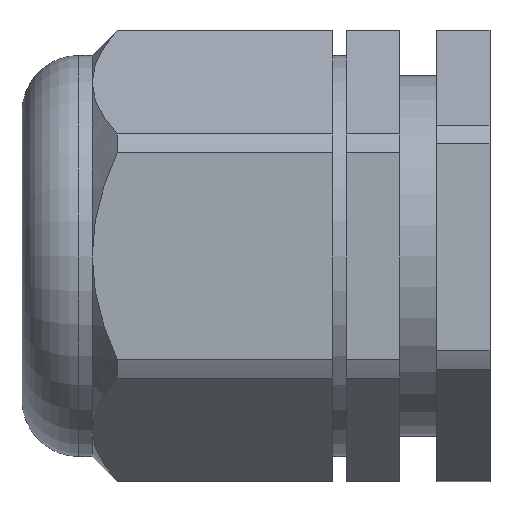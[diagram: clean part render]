
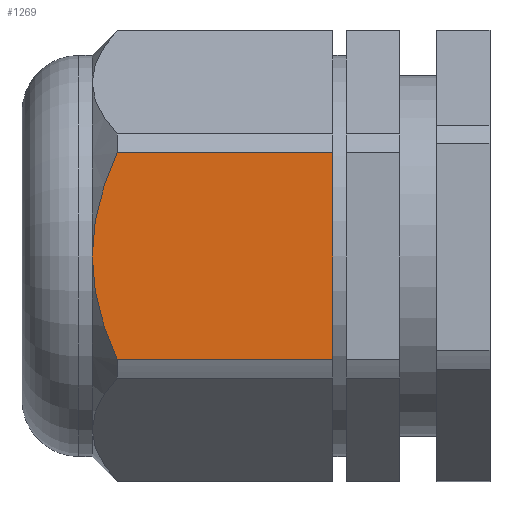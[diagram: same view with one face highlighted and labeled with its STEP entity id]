
A CAD part, left-side view. The second image highlights one B-rep face of the part: STEP entity #1269.
In plain terms, the highlighted planar face has unit normal (-1, 0, 0).
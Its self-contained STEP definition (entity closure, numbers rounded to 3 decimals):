
#41 = CARTESIAN_POINT ( 'NONE',  ( -30., 59.058, -5.334 ) ) ;
#49 = LINE ( 'NONE', #898, #1514 ) ;
#81 = ORIENTED_EDGE ( 'NONE', *, *, #2110, .F. ) ;
#91 = ORIENTED_EDGE ( 'NONE', *, *, #1362, .F. ) ;
#127 = CARTESIAN_POINT ( 'NONE',  ( -30., 55.75, -15.462 ) ) ;
#145 = CARTESIAN_POINT ( 'NONE',  ( -30., 57.509, 11.124 ) ) ;
#191 = B_SPLINE_CURVE_WITH_KNOTS ( 'NONE', 3,
 ( #823, #2174, #1186, #2336, #1755, #1006, #1194, #1216, #41, #421, #1745, #2136, #1760, #1399 ),
 .UNSPECIFIED., .F., .F.,
 ( 4, 2, 2, 2, 2, 2, 4 ),
 ( 0.024, 0.026, 0.028, 0.032, 0.036, 0.038, 0.04 ),
 .UNSPECIFIED. ) ;
#229 = EDGE_LOOP ( 'NONE', ( #2447, #2217, #1839, #81, #91, #2428 ) ) ;
#242 = LINE ( 'NONE', #381, #1107 ) ;
#332 = CARTESIAN_POINT ( 'NONE',  ( -30., 56.304, 14.252 ) ) ;
#381 = CARTESIAN_POINT ( 'NONE',  ( -30., 23.5, 33.75 ) ) ;
#421 = CARTESIAN_POINT ( 'NONE',  ( -30., 59.32, -3.353 ) ) ;
#455 = EDGE_CURVE ( 'NONE', #1645, #2451, #1692, .T. ) ;
#537 = CARTESIAN_POINT ( 'NONE',  ( -30., 0., 15.462 ) ) ;
#630 = CARTESIAN_POINT ( 'NONE',  ( -30., 195.26, -17.321 ) ) ;
#701 = CARTESIAN_POINT ( 'NONE',  ( -30., 59.5, 0. ) ) ;
#711 = CARTESIAN_POINT ( 'NONE',  ( -30., 59.5, 2.698 ) ) ;
#823 = CARTESIAN_POINT ( 'NONE',  ( -30., 55.75, -15.462 ) ) ;
#898 = CARTESIAN_POINT ( 'NONE',  ( -30., 23.5, 33.75 ) ) ;
#1006 = CARTESIAN_POINT ( 'NONE',  ( -30., 57.742, -10.485 ) ) ;
#1009 = VERTEX_POINT ( 'NONE', #1656 ) ;
#1033 = DIRECTION ( 'NONE',  ( 1., 0., 0. ) ) ;
#1081 = CARTESIAN_POINT ( 'NONE',  ( -30., 56.818, 13.019 ) ) ;
#1107 = VECTOR ( 'NONE', #1953, 1000. ) ;
#1137 = FACE_OUTER_BOUND ( 'NONE', #229, .T. ) ;
#1186 = CARTESIAN_POINT ( 'NONE',  ( -30., 56.296, -14.242 ) ) ;
#1194 = CARTESIAN_POINT ( 'NONE',  ( -30., 58.142, -9.212 ) ) ;
#1216 = CARTESIAN_POINT ( 'NONE',  ( -30., 58.8, -6.636 ) ) ;
#1234 = VERTEX_POINT ( 'NONE', #2155 ) ;
#1269 = ADVANCED_FACE ( 'NONE', ( #1137 ), #1607, .F. ) ;
#1299 = CARTESIAN_POINT ( 'NONE',  ( -30., 57.726, 10.485 ) ) ;
#1309 = CARTESIAN_POINT ( 'NONE',  ( -30., 58.125, 9.205 ) ) ;
#1337 = LINE ( 'NONE', #2224, #2240 ) ;
#1362 = EDGE_CURVE ( 'NONE', #2451, #2025, #2284, .T. ) ;
#1368 = AXIS2_PLACEMENT_3D ( 'NONE', #630, #1033, #1987 ) ;
#1399 = CARTESIAN_POINT ( 'NONE',  ( -30., 59.5, 0. ) ) ;
#1423 = EDGE_CURVE ( 'NONE', #1009, #1234, #242, .T. ) ;
#1427 = CARTESIAN_POINT ( 'NONE',  ( -30., 59.5, 0. ) ) ;
#1428 = CARTESIAN_POINT ( 'NONE',  ( -30., 55.75, 15.462 ) ) ;
#1473 = DIRECTION ( 'NONE',  ( 0., 0., -1. ) ) ;
#1514 = VECTOR ( 'NONE', #1473, 1000. ) ;
#1607 = PLANE ( 'NONE',  #1368 ) ;
#1645 = VERTEX_POINT ( 'NONE', #1427 ) ;
#1656 = CARTESIAN_POINT ( 'NONE',  ( -30., 23.5, 0. ) ) ;
#1657 = EDGE_CURVE ( 'NONE', #1234, #2429, #1337, .T. ) ;
#1678 = CARTESIAN_POINT ( 'NONE',  ( -30., 59.132, 5.332 ) ) ;
#1692 = B_SPLINE_CURVE_WITH_KNOTS ( 'NONE', 3,
 ( #701, #711, #1678, #1697, #1309, #1299, #145, #1081, #332, #2065 ),
 .UNSPECIFIED., .F., .F.,
 ( 4, 2, 2, 2, 4 ),
 ( 0.04, 0.048, 0.05, 0.052, 0.056 ),
 .UNSPECIFIED. ) ;
#1697 = CARTESIAN_POINT ( 'NONE',  ( -30., 58.308, 8.562 ) ) ;
#1728 = DIRECTION ( 'NONE',  ( 0., -1., 0. ) ) ;
#1745 = CARTESIAN_POINT ( 'NONE',  ( -30., 59.387, -2.689 ) ) ;
#1755 = CARTESIAN_POINT ( 'NONE',  ( -30., 57.053, -12.375 ) ) ;
#1760 = CARTESIAN_POINT ( 'NONE',  ( -30., 59.5, -0.674 ) ) ;
#1839 = ORIENTED_EDGE ( 'NONE', *, *, #1423, .F. ) ;
#1861 = EDGE_CURVE ( 'NONE', #2429, #1645, #191, .T. ) ;
#1953 = DIRECTION ( 'NONE',  ( 0., 0., -1. ) ) ;
#1987 = DIRECTION ( 'NONE',  ( 0., 0., -1. ) ) ;
#2017 = DIRECTION ( 'NONE',  ( 0., 1., 0. ) ) ;
#2025 = VERTEX_POINT ( 'NONE', #2353 ) ;
#2065 = CARTESIAN_POINT ( 'NONE',  ( -30., 55.75, 15.462 ) ) ;
#2110 = EDGE_CURVE ( 'NONE', #2025, #1009, #49, .T. ) ;
#2136 = CARTESIAN_POINT ( 'NONE',  ( -30., 59.477, -1.351 ) ) ;
#2155 = CARTESIAN_POINT ( 'NONE',  ( -30., 23.5, -15.462 ) ) ;
#2174 = CARTESIAN_POINT ( 'NONE',  ( -30., 56.028, -14.855 ) ) ;
#2217 = ORIENTED_EDGE ( 'NONE', *, *, #1657, .F. ) ;
#2224 = CARTESIAN_POINT ( 'NONE',  ( -30., 0., -15.462 ) ) ;
#2240 = VECTOR ( 'NONE', #2017, 1000. ) ;
#2284 = LINE ( 'NONE', #537, #2389 ) ;
#2336 = CARTESIAN_POINT ( 'NONE',  ( -30., 56.808, -13.003 ) ) ;
#2353 = CARTESIAN_POINT ( 'NONE',  ( -30., 23.5, 15.462 ) ) ;
#2389 = VECTOR ( 'NONE', #1728, 1000. ) ;
#2428 = ORIENTED_EDGE ( 'NONE', *, *, #455, .F. ) ;
#2429 = VERTEX_POINT ( 'NONE', #127 ) ;
#2447 = ORIENTED_EDGE ( 'NONE', *, *, #1861, .F. ) ;
#2451 = VERTEX_POINT ( 'NONE', #1428 ) ;
